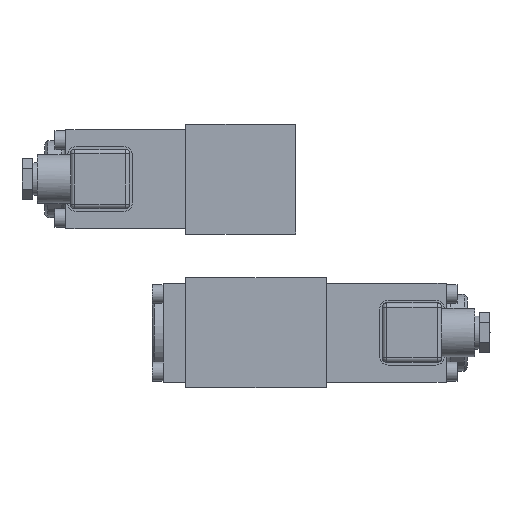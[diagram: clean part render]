
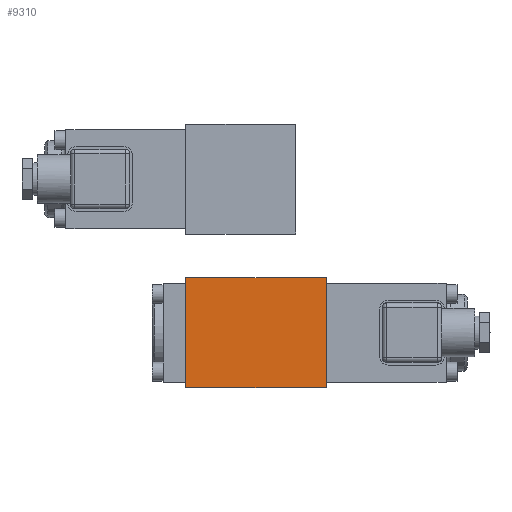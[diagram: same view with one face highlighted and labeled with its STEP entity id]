
A CAD part, top view. The second image highlights one B-rep face of the part: STEP entity #9310.
In plain terms, the highlighted planar face has unit normal (0, 0, 1).
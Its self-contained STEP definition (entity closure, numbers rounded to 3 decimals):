
#9310=ADVANCED_FACE('', (#9320), #9330, .T.);
#35360=AXIS2_PLACEMENT_3D('Ax2Pl3d', #35370, #35380, #35390);
#60040=CARTESIAN_POINT('', (64.,0.,50.));
#60090=CARTESIAN_POINT('', (64.,50.,50.));
#60100=CARTESIAN_POINT('', (64.,50.,50.));
#60230=CARTESIAN_POINT('', (0.,50.,50.));
#60240=CARTESIAN_POINT('', (64.,50.,50.));
#60310=CARTESIAN_POINT('', (0.,50.,50.));
#60320=CARTESIAN_POINT('', (0.,0.,50.));
#60440=CARTESIAN_POINT('', (64.,0.,50.));
#35370=CARTESIAN_POINT('HicPkt', (0.,0.,50.));
#74450=DIRECTION('', (0.,1.,0.));
#74470=DIRECTION('', (1.,0.,0.));
#74490=DIRECTION('', (0.,1.,0.));
#74520=DIRECTION('', (1.,0.,0.));
#35380=DIRECTION('Axis', (0.,0.,1.));
#35390=DIRECTION('RefDirection', (1.,0.,0.));
#87870=EDGE_CURVE('', #87780, #87850, #87880, .T.);
#88130=EDGE_CURVE('', #88110, #87850, #88140, .T.);
#88250=EDGE_CURVE('', #88260, #88110, #88270, .T.);
#88490=EDGE_CURVE('', #88260, #87780, #88500, .T.);
#112580=EDGE_LOOP('Edge_loop', (#112590,#112600,#112610,#112620));
#9320=FACE_OUTER_BOUND('Face_outer_bound', #112580, .T.);
#87880=LINE('Line', #60100, #130610);
#88140=LINE('Line', #60240, #130630);
#88270=LINE('Line', #60310, #130650);
#88500=LINE('Line', #60440, #130680);
#112590=ORIENTED_EDGE('', *, *, #88490, .T.);
#112600=ORIENTED_EDGE('', *, *, #87870, .T.);
#112610=ORIENTED_EDGE('', *, *, #88130, .F.);
#112620=ORIENTED_EDGE('', *, *, #88250, .F.);
#9330=PLANE('Plane', #35360);
#130610=VECTOR('', #74450, 50.);
#130630=VECTOR('', #74470, 64.);
#130650=VECTOR('', #74490, 50.);
#130680=VECTOR('', #74520, 64.);
#87780=VERTEX_POINT('', #60040);
#87850=VERTEX_POINT('', #60090);
#88110=VERTEX_POINT('', #60230);
#88260=VERTEX_POINT('', #60320);
